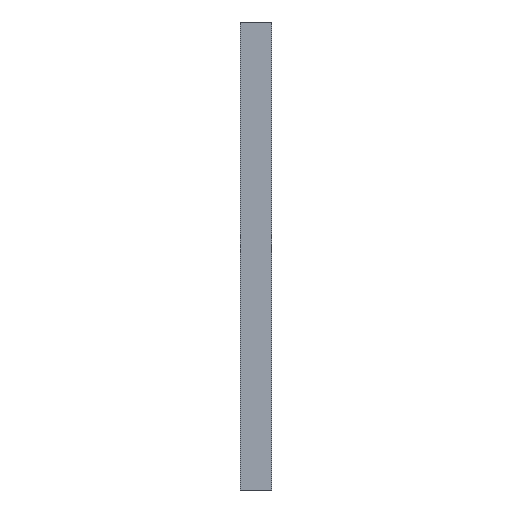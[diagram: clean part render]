
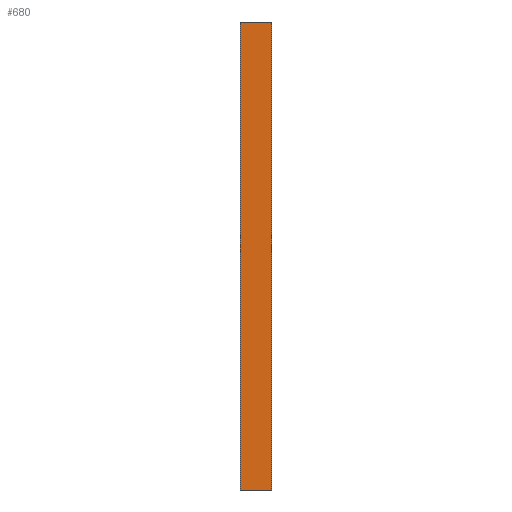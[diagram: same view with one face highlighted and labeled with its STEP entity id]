
A CAD part, left-side view. The second image highlights one B-rep face of the part: STEP entity #680.
In plain terms, the highlighted planar face has unit normal (-1, 0, 0).
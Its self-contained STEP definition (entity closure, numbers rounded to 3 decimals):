
#23 = LINE ( 'NONE', #610, #760 ) ;
#25 = LINE ( 'NONE', #133, #599 ) ;
#47 = ORIENTED_EDGE ( 'NONE', *, *, #761, .T. ) ;
#49 = EDGE_LOOP ( 'NONE', ( #47, #631, #546, #726 ) ) ;
#98 = AXIS2_PLACEMENT_3D ( 'NONE', #655, #730, #813 ) ;
#115 = CARTESIAN_POINT ( 'NONE',  ( -89.09, 0., -13.223 ) ) ;
#133 = CARTESIAN_POINT ( 'NONE',  ( -89.09, 2.5, 23.777 ) ) ;
#148 = DIRECTION ( 'NONE',  ( 0., 0., 1. ) ) ;
#176 = PLANE ( 'NONE',  #98 ) ;
#244 = LINE ( 'NONE', #667, #693 ) ;
#300 = FACE_OUTER_BOUND ( 'NONE', #49, .T. ) ;
#321 = LINE ( 'NONE', #362, #613 ) ;
#345 = VERTEX_POINT ( 'NONE', #588 ) ;
#362 = CARTESIAN_POINT ( 'NONE',  ( -89.09, 2.5, -13.223 ) ) ;
#367 = VERTEX_POINT ( 'NONE', #115 ) ;
#411 = DIRECTION ( 'NONE',  ( 0., -1., 0. ) ) ;
#530 = EDGE_CURVE ( 'NONE', #620, #811, #321, .T. ) ;
#546 = ORIENTED_EDGE ( 'NONE', *, *, #530, .F. ) ;
#584 = DIRECTION ( 'NONE',  ( 0., 0., 1. ) ) ;
#588 = CARTESIAN_POINT ( 'NONE',  ( -89.09, 0., 23.777 ) ) ;
#596 = CARTESIAN_POINT ( 'NONE',  ( -89.09, 2.5, -13.223 ) ) ;
#599 = VECTOR ( 'NONE', #611, 1000. ) ;
#610 = CARTESIAN_POINT ( 'NONE',  ( -89.09, 0., -13.223 ) ) ;
#611 = DIRECTION ( 'NONE',  ( 0., -1., 0. ) ) ;
#613 = VECTOR ( 'NONE', #148, 1000. ) ;
#620 = VERTEX_POINT ( 'NONE', #596 ) ;
#631 = ORIENTED_EDGE ( 'NONE', *, *, #647, .F. ) ;
#647 = EDGE_CURVE ( 'NONE', #811, #345, #25, .T. ) ;
#655 = CARTESIAN_POINT ( 'NONE',  ( -89.09, 2.5, -13.223 ) ) ;
#667 = CARTESIAN_POINT ( 'NONE',  ( -89.09, 2.5, -13.223 ) ) ;
#680 = ADVANCED_FACE ( 'NONE', ( #300 ), #176, .F. ) ;
#693 = VECTOR ( 'NONE', #411, 1000. ) ;
#726 = ORIENTED_EDGE ( 'NONE', *, *, #822, .T. ) ;
#730 = DIRECTION ( 'NONE',  ( 1., 0., 0. ) ) ;
#760 = VECTOR ( 'NONE', #584, 1000. ) ;
#761 = EDGE_CURVE ( 'NONE', #367, #345, #23, .T. ) ;
#811 = VERTEX_POINT ( 'NONE', #815 ) ;
#813 = DIRECTION ( 'NONE',  ( 0., 0., -1. ) ) ;
#815 = CARTESIAN_POINT ( 'NONE',  ( -89.09, 2.5, 23.777 ) ) ;
#822 = EDGE_CURVE ( 'NONE', #620, #367, #244, .T. ) ;
